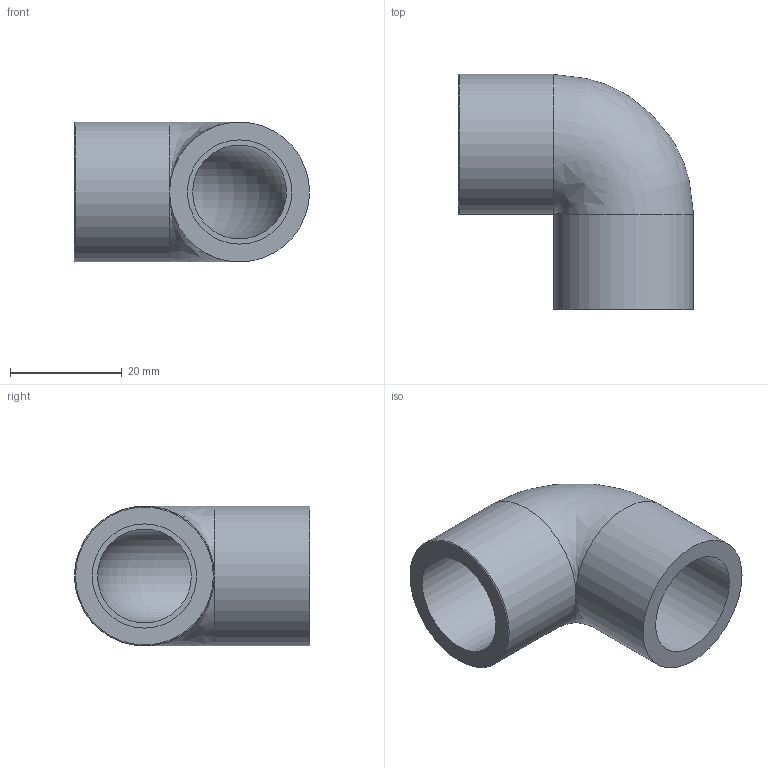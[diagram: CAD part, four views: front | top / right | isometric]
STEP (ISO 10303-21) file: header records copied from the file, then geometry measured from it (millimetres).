
FILE_DESCRIPTION(/* description */ ('PLASSON THREADED 90° ELBOW PVC 1/2"'),/* implementation_level */ '2;1');
FILE_NAME(/* name */ 'C:\Dropbox\KIMPROJECTS-Inventor\99-16-3568-Processing\PVC Catalog 2017\050501\050501005.ipt.stp',/* time_stamp */ '2017-12-07T15:55:48+02:00',/* author */ ('KIM'),/* organization */ (''),/* preprocessor_version */ 'ST-DEVELOPER v15.6',/* originating_system */ 'Autodesk Inventor 2015',/* authorisation */ '');
FILE_SCHEMA (('AUTOMOTIVE_DESIGN { 1 0 10303 214 3 1 1 }'));
Length unit declared in the file: millimetre
Products named in the file (1): 050501005
Bounding box: 42 x 42 x 25 mm (x, y, z)
Volume: 12948.1 mm3; surface area: 7774.6 mm2
Topology: 1 solids, 1 shells, 11 faces, 20 edges, 11 vertices
Faces by surface type: cylinder 4, plane 4, torus 2, bspline 1
Full cylindrical faces by diameter (mm): 18.631 x2, 25 x2
Entity records: 270 total; most frequent: CARTESIAN_POINT 59, DIRECTION 44, ORIENTED_EDGE 22, AXIS2_PLACEMENT_3D 22, EDGE_LOOP 21, FACE_OUTER_BOUND 11, CIRCLE 11, EDGE_CURVE 11
